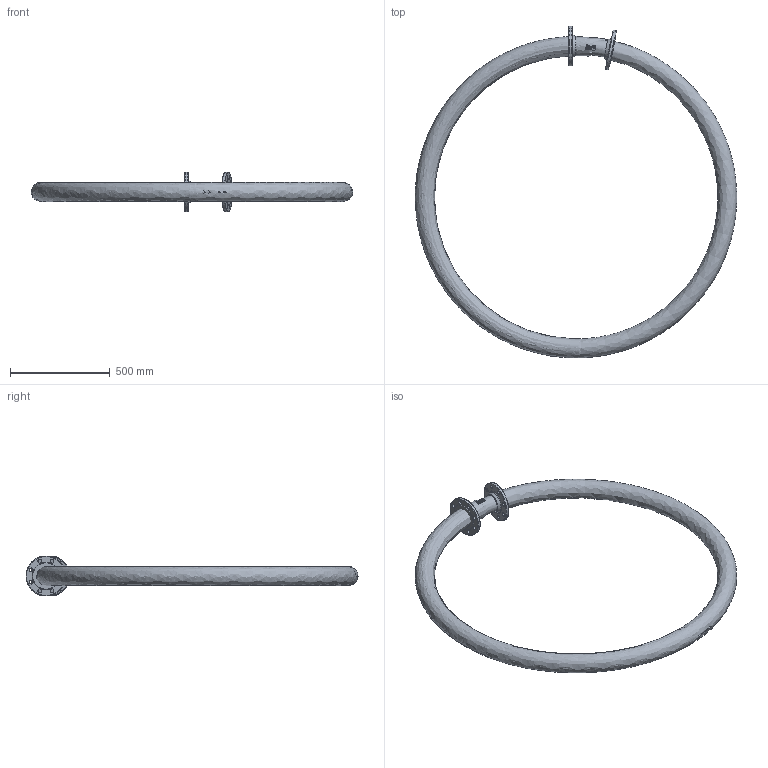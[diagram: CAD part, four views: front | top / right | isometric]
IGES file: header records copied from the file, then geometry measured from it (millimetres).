
Start section: SolidWorks IGES file using analytic representation for surfaces
Global section: file name: \\avksan2\techshare\PBM outline export from Enovia\O_712_0110_DN80_1X_REV01.igs; native system: SolidWorks 2022; preprocessor: SolidWorks 2022; author: pbm; date: 240815.093404; units: millimetre
Bounding box: 1609.98 x 1661.95 x 200 mm (x, y, z)
Surface area: 4374157.2 mm2 (no closed solid volume)
Topology: 0 solids, 1 shells, 123 faces, 1227 edges, 1192 vertices
Faces by surface type: revolution 78, bspline 45
